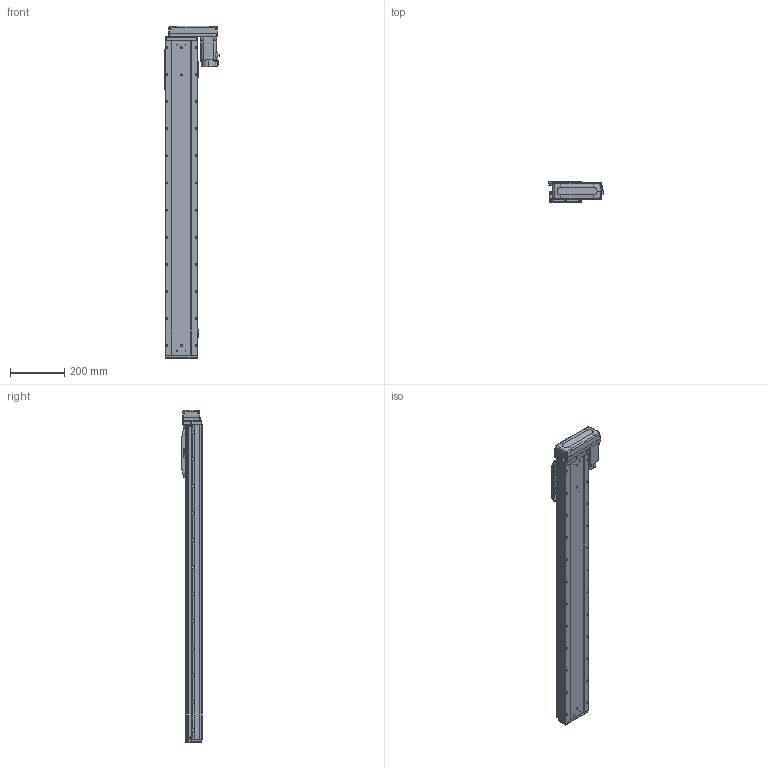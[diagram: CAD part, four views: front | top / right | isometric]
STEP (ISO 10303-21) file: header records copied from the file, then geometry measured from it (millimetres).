
FILE_DESCRIPTION (( 'STEP AP203' ), '1' );
FILE_NAME ('GTH12-950-BL-M40-C4.step', '2023-07-04T10:42:11', ( '微软用户' ), ( '微软中国' ), 'SwSTEP 2.0', 'SolidWorks 2020', '' );
FILE_SCHEMA (( 'CONFIG_CONTROL_DESIGN' ));
Length unit declared in the file: millimetre
Products named in the file (18): hg-kn43j_-s100_; GTH120-003; GTH80-022; CTHA86-033_M40B; GTH120-006; GTH80-028; GTH120-027-1_GTH120-027-2; GTH120-004; GTH50-023; GTH12-950-BL-M40-C4; GTH120-013; GTH50-024; GBT 70.1-M3℅6; GBT96.1-2002 3×0.8; GBT 70.1-M5×16; BTH-M3X5X6; GTH120-001_950; GBT 70.3-M3℅8
Assembly tree (59 placements, depth 2):
  GTH12-950-BL-M40-C4
    GTH120-001_950
    GTH120-003
    GTH120-006
    GTH120-004
    GTH120-013
    GBT 70.1-M3℅6  x14
    GBT 70.1-M5×16  x10
    GBT 70.3-M3℅8  x4
    GTH80-022
    GTH80-028  x2
    GTH50-023  x3
    GTH50-024  x3
    GBT96.1-2002 3×0.8  x6
    BTH-M3X5X6  x8
    hg-kn43j_-s100_
    CTHA86-033_M40B
    GTH120-027-1_GTH120-027-2
Bounding box: 199.8 x 76 x 1225.5 mm (x, y, z)
Volume: 8842840.4 mm3; surface area: 765090.5 mm2
Topology: 61 solids, 61 shells, 2520 faces, 5899 edges, 3621 vertices
Faces by surface type: plane 1286, cylinder 742, cone 304, torus 174, sphere 8, bspline 6
Entity records: 47965 total; most frequent: CARTESIAN_POINT 8126, DIRECTION 7971, ORIENTED_EDGE 7408, EDGE_CURVE 3704, AXIS2_PLACEMENT_3D 2787, LINE 2397, VECTOR 2397, VERTEX_POINT 2342
